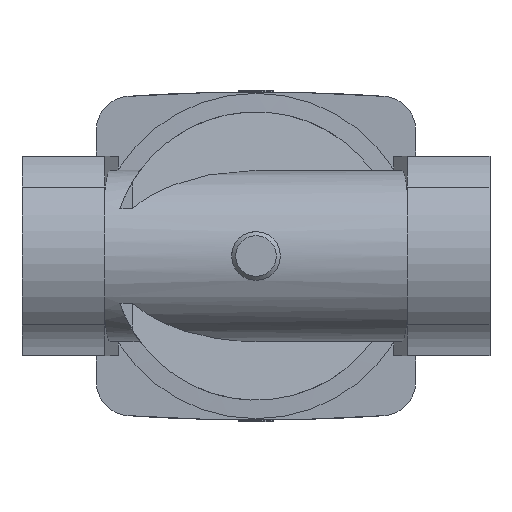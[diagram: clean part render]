
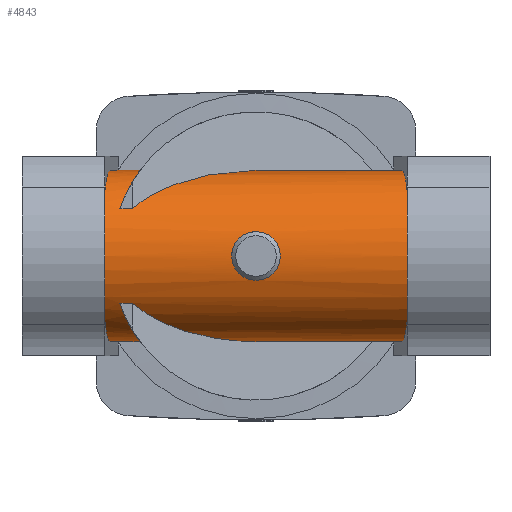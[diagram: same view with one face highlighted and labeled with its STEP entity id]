
A CAD part, front view. The second image highlights one B-rep face of the part: STEP entity #4843.
In plain terms, the highlighted cylindrical face has radius 30 mm (diameter 60 mm), a partial arc.
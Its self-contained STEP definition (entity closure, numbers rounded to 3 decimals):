
#228=B_SPLINE_CURVE_WITH_KNOTS('',3,(#7881,#7882,#7883,#7884,#7885,#7886,
#7887,#7888,#7889),.UNSPECIFIED.,.F.,.F.,(4,1,1,1,1,1,4),(0.,
0.008,0.011,0.015,0.023,
0.027,0.03),.UNSPECIFIED.);
#229=B_SPLINE_CURVE_WITH_KNOTS('',3,(#7909,#7910,#7911,#7912,#7913,#7914,
#7915,#7916,#7917,#7918,#7919),.UNSPECIFIED.,.F.,.F.,(4,1,1,1,1,1,1,1,4),
(0.066,0.07,0.073,0.077,
0.081,0.085,0.089,0.092,
0.096),.UNSPECIFIED.);
#230=B_SPLINE_CURVE_WITH_KNOTS('',3,(#7922,#7923,#7924,#7925,#7926,#7927,
#7928,#7929,#7930,#7931,#7932,#7933,#7934,#7935,#7936,#7937,#7938,#7939,
#7940),.UNSPECIFIED.,.T.,.F.,(1,1,1,1,1,1,1,1,1,1,1,1,1,1,1,1,1,1,1,1,1,
1,1),(-0.01,-0.007,-0.003,0.,
0.003,0.007,0.01,0.013,
0.017,0.02,0.023,0.027,
0.03,0.033,0.037,0.04,
0.043,0.047,0.05,0.053,
0.057,0.06,0.063),.UNSPECIFIED.);
#267=LINE('',#7879,#725);
#268=LINE('',#7891,#726);
#269=LINE('',#7895,#727);
#270=LINE('',#7903,#728);
#271=LINE('',#7907,#729);
#272=LINE('',#7921,#730);
#725=VECTOR('',#6382,1000.);
#726=VECTOR('',#6383,1000.);
#727=VECTOR('',#6386,1000.);
#728=VECTOR('',#6393,1000.);
#729=VECTOR('',#6396,1000.);
#730=VECTOR('',#6397,1000.);
#1183=CIRCLE('',#5855,30.);
#1184=CIRCLE('',#5859,30.);
#1361=ORIENTED_EDGE('',*,*,#2819,.F.);
#1362=ORIENTED_EDGE('',*,*,#2820,.T.);
#1363=ORIENTED_EDGE('',*,*,#2821,.F.);
#1364=ORIENTED_EDGE('',*,*,#2822,.F.);
#1365=ORIENTED_EDGE('',*,*,#2823,.T.);
#1366=ORIENTED_EDGE('',*,*,#2824,.F.);
#1367=ORIENTED_EDGE('',*,*,#2825,.F.);
#1368=ORIENTED_EDGE('',*,*,#2826,.F.);
#1369=ORIENTED_EDGE('',*,*,#2827,.F.);
#1370=ORIENTED_EDGE('',*,*,#2828,.F.);
#1371=ORIENTED_EDGE('',*,*,#2829,.F.);
#1372=ORIENTED_EDGE('',*,*,#2830,.F.);
#1373=ORIENTED_EDGE('',*,*,#2831,.F.);
#1374=ORIENTED_EDGE('',*,*,#2832,.F.);
#1375=ORIENTED_EDGE('',*,*,#2833,.T.);
#1376=ORIENTED_EDGE('',*,*,#2834,.F.);
#1377=ORIENTED_EDGE('',*,*,#2835,.F.);
#2819=EDGE_CURVE('',#3548,#3549,#4041,.T.);
#2820=EDGE_CURVE('',#3548,#3550,#1183,.T.);
#2821=EDGE_CURVE('',#3551,#3550,#4042,.T.);
#2822=EDGE_CURVE('',#3552,#3551,#267,.T.);
#2823=EDGE_CURVE('',#3552,#3553,#228,.T.);
#2824=EDGE_CURVE('',#3554,#3553,#268,.T.);
#2825=EDGE_CURVE('',#3555,#3554,#4043,.F.);
#2826=EDGE_CURVE('',#3556,#3555,#269,.T.);
#2827=EDGE_CURVE('',#3557,#3556,#4044,.T.);
#2828=EDGE_CURVE('',#3558,#3557,#1184,.T.);
#2829=EDGE_CURVE('',#3559,#3558,#4045,.T.);
#2830=EDGE_CURVE('',#3560,#3559,#270,.T.);
#2831=EDGE_CURVE('',#3561,#3560,#4046,.F.);
#2832=EDGE_CURVE('',#3562,#3561,#271,.F.);
#2833=EDGE_CURVE('',#3562,#3563,#229,.T.);
#2834=EDGE_CURVE('',#3549,#3563,#272,.T.);
#2835=EDGE_CURVE('',#3564,#3564,#230,.T.);
#3548=VERTEX_POINT('',#7873);
#3549=VERTEX_POINT('',#7874);
#3550=VERTEX_POINT('',#7876);
#3551=VERTEX_POINT('',#7878);
#3552=VERTEX_POINT('',#7880);
#3553=VERTEX_POINT('',#7890);
#3554=VERTEX_POINT('',#7892);
#3555=VERTEX_POINT('',#7894);
#3556=VERTEX_POINT('',#7896);
#3557=VERTEX_POINT('',#7898);
#3558=VERTEX_POINT('',#7900);
#3559=VERTEX_POINT('',#7902);
#3560=VERTEX_POINT('',#7904);
#3561=VERTEX_POINT('',#7906);
#3562=VERTEX_POINT('',#7908);
#3563=VERTEX_POINT('',#7920);
#3564=VERTEX_POINT('',#7941);
#4041=ELLIPSE('',#5854,30.115,30.);
#4042=ELLIPSE('',#5856,30.115,30.);
#4043=ELLIPSE('',#5857,60.,30.);
#4044=ELLIPSE('',#5858,30.115,30.);
#4045=ELLIPSE('',#5860,30.115,30.);
#4046=ELLIPSE('',#5861,60.,30.);
#4095=EDGE_LOOP('',(#1361,#1362,#1363,#1364,#1365,#1366,#1367,#1368,#1369,
#1370,#1371,#1372,#1373,#1374,#1375,#1376));
#4096=EDGE_LOOP('',(#1377));
#4423=FACE_BOUND('',#4095,.T.);
#4424=FACE_BOUND('',#4096,.T.);
#4751=CYLINDRICAL_SURFACE('',#5853,30.);
#4843=ADVANCED_FACE('',(#4423,#4424),#4751,.T.);
#5853=AXIS2_PLACEMENT_3D('',#7871,#6374,#6375);
#5854=AXIS2_PLACEMENT_3D('',#7872,#6376,#6377);
#5855=AXIS2_PLACEMENT_3D('',#7875,#6378,#6379);
#5856=AXIS2_PLACEMENT_3D('',#7877,#6380,#6381);
#5857=AXIS2_PLACEMENT_3D('',#7893,#6384,#6385);
#5858=AXIS2_PLACEMENT_3D('',#7897,#6387,#6388);
#5859=AXIS2_PLACEMENT_3D('',#7899,#6389,#6390);
#5860=AXIS2_PLACEMENT_3D('',#7901,#6391,#6392);
#5861=AXIS2_PLACEMENT_3D('',#7905,#6394,#6395);
#6374=DIRECTION('',(-1.,0.,0.));
#6375=DIRECTION('',(0.,0.,1.));
#6376=DIRECTION('',(-0.996,0.087,0.));
#6377=DIRECTION('',(-0.087,-0.996,0.));
#6378=DIRECTION('',(1.,0.,0.));
#6379=DIRECTION('',(0.,0.,-1.));
#6380=DIRECTION('',(-0.996,0.087,0.));
#6381=DIRECTION('',(-0.087,-0.996,0.));
#6382=DIRECTION('',(-1.,0.,0.));
#6383=DIRECTION('',(-1.,0.,0.));
#6384=DIRECTION('',(0.5,-0.866,0.));
#6385=DIRECTION('',(-0.866,-0.5,0.));
#6386=DIRECTION('',(-1.,0.,0.));
#6387=DIRECTION('',(0.996,0.087,0.));
#6388=DIRECTION('',(-0.087,0.996,0.));
#6389=DIRECTION('',(1.,0.,0.));
#6390=DIRECTION('',(0.,0.,-1.));
#6391=DIRECTION('',(0.996,0.087,0.));
#6392=DIRECTION('',(-0.087,0.996,0.));
#6393=DIRECTION('',(1.,0.,0.));
#6394=DIRECTION('',(0.5,-0.866,0.));
#6395=DIRECTION('',(-0.866,-0.5,0.));
#6396=DIRECTION('',(-1.,0.,0.));
#6397=DIRECTION('',(1.,0.,0.));
#7871=CARTESIAN_POINT('',(56.,0.,0.));
#7872=CARTESIAN_POINT('',(-51.25,0.,0.));
#7873=CARTESIAN_POINT('',(-53.,-20.,22.361));
#7874=CARTESIAN_POINT('',(-51.25,0.,30.));
#7875=CARTESIAN_POINT('',(-53.,0.,0.));
#7876=CARTESIAN_POINT('',(-53.,-20.,-22.361));
#7877=CARTESIAN_POINT('',(-51.25,0.,0.));
#7878=CARTESIAN_POINT('',(-51.25,0.,-30.));
#7879=CARTESIAN_POINT('',(56.,0.,-30.));
#7880=CARTESIAN_POINT('',(-40.623,0.,-30.));
#7881=CARTESIAN_POINT('',(-40.623,0.,-30.));
#7882=CARTESIAN_POINT('',(-40.623,-2.57,-30.));
#7883=CARTESIAN_POINT('',(-40.99,-6.313,-29.516));
#7884=CARTESIAN_POINT('',(-42.068,-11.099,-27.954));
#7885=CARTESIAN_POINT('',(-43.404,-15.52,-25.875));
#7886=CARTESIAN_POINT('',(-45.014,-19.5,-23.02));
#7887=CARTESIAN_POINT('',(-46.59,-22.843,-19.56));
#7888=CARTESIAN_POINT('',(-47.347,-24.327,-17.598));
#7889=CARTESIAN_POINT('',(-47.7,-25.,-16.583));
#7890=CARTESIAN_POINT('',(-47.7,-25.,-16.583));
#7891=CARTESIAN_POINT('',(56.,-25.,-16.583));
#7892=CARTESIAN_POINT('',(-43.301,-25.,-16.583));
#7893=CARTESIAN_POINT('',(0.,0.,0.));
#7894=CARTESIAN_POINT('',(0.,0.,-30.));
#7895=CARTESIAN_POINT('',(56.,0.,-30.));
#7896=CARTESIAN_POINT('',(51.25,0.,-30.));
#7897=CARTESIAN_POINT('',(51.25,0.,0.));
#7898=CARTESIAN_POINT('',(53.,-20.,-22.361));
#7899=CARTESIAN_POINT('',(53.,0.,0.));
#7900=CARTESIAN_POINT('',(53.,-20.,22.361));
#7901=CARTESIAN_POINT('',(51.25,0.,0.));
#7902=CARTESIAN_POINT('',(51.25,0.,30.));
#7903=CARTESIAN_POINT('',(-56.,0.,30.));
#7904=CARTESIAN_POINT('',(0.,0.,30.));
#7905=CARTESIAN_POINT('',(0.,0.,0.));
#7906=CARTESIAN_POINT('',(-43.301,-25.,16.583));
#7907=CARTESIAN_POINT('',(56.,-25.,16.583));
#7908=CARTESIAN_POINT('',(-47.7,-25.,16.583));
#7909=CARTESIAN_POINT('',(-47.7,-25.,16.583));
#7910=CARTESIAN_POINT('',(-47.344,-24.322,17.605));
#7911=CARTESIAN_POINT('',(-46.59,-22.842,19.562));
#7912=CARTESIAN_POINT('',(-45.409,-20.337,22.153));
#7913=CARTESIAN_POINT('',(-44.206,-17.504,24.455));
#7914=CARTESIAN_POINT('',(-43.07,-14.415,26.393));
#7915=CARTESIAN_POINT('',(-42.074,-11.12,27.945));
#7916=CARTESIAN_POINT('',(-41.265,-7.54,29.119));
#7917=CARTESIAN_POINT('',(-40.745,-3.822,29.836));
#7918=CARTESIAN_POINT('',(-40.623,-1.286,30.));
#7919=CARTESIAN_POINT('',(-40.623,0.,30.));
#7920=CARTESIAN_POINT('',(-40.623,0.,30.));
#7921=CARTESIAN_POINT('',(-56.,0.,30.));
#7922=CARTESIAN_POINT('',(-3.363,-28.91,-8.047));
#7923=CARTESIAN_POINT('',(0.002,-28.701,-8.726));
#7924=CARTESIAN_POINT('',(3.355,-28.909,-8.05));
#7925=CARTESIAN_POINT('',(6.165,-29.394,-6.164));
#7926=CARTESIAN_POINT('',(8.05,-29.868,-3.355));
#7927=CARTESIAN_POINT('',(8.724,-30.066,-0.007));
#7928=CARTESIAN_POINT('',(8.054,-29.869,3.349));
#7929=CARTESIAN_POINT('',(6.163,-29.393,6.167));
#7930=CARTESIAN_POINT('',(3.353,-28.909,8.05));
#7931=CARTESIAN_POINT('',(0.004,-28.702,8.724));
#7932=CARTESIAN_POINT('',(-3.347,-28.908,8.053));
#7933=CARTESIAN_POINT('',(-6.16,-29.392,6.169));
#7934=CARTESIAN_POINT('',(-8.049,-29.868,3.357));
#7935=CARTESIAN_POINT('',(-8.725,-30.066,0.003));
#7936=CARTESIAN_POINT('',(-8.052,-29.869,-3.35));
#7937=CARTESIAN_POINT('',(-6.166,-29.394,-6.162));
#7938=CARTESIAN_POINT('',(-3.363,-28.91,-8.047));
#7939=CARTESIAN_POINT('',(0.002,-28.701,-8.726));
#7940=CARTESIAN_POINT('',(3.355,-28.909,-8.05));
#7941=CARTESIAN_POINT('',(0.,-28.771,-8.5));
